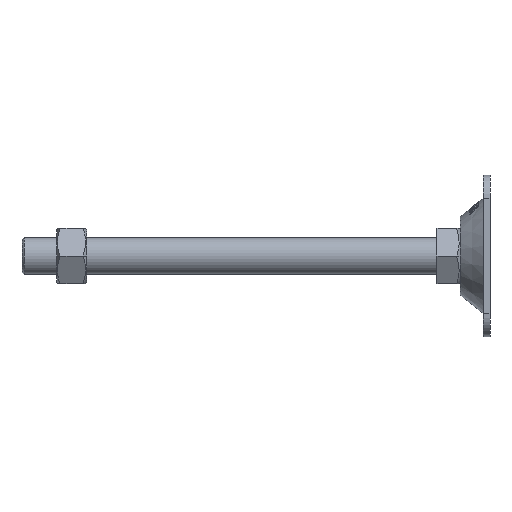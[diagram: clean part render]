
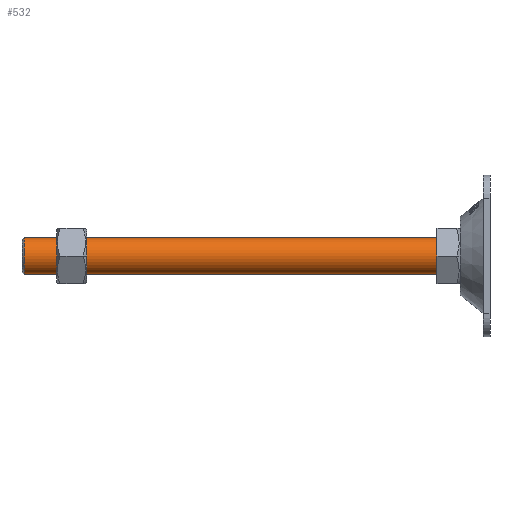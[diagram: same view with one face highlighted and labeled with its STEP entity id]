
A CAD part, left-side view. The second image highlights one B-rep face of the part: STEP entity #532.
In plain terms, the highlighted cylindrical face has radius 8 mm (diameter 16 mm), a partial arc.
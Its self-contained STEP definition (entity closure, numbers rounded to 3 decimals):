
#101 = AXIS2_PLACEMENT_3D ( 'NONE', #4264, #2349, #4292 ) ;
#214 = VECTOR ( 'NONE', #2104, 1000. ) ;
#228 = ORIENTED_EDGE ( 'NONE', *, *, #4911, .T. ) ;
#232 = CARTESIAN_POINT ( 'NONE',  ( 0., 8., 8. ) ) ;
#274 = CARTESIAN_POINT ( 'NONE',  ( 0., 10., 8. ) ) ;
#305 = VECTOR ( 'NONE', #2062, 1000. ) ;
#532 = ADVANCED_FACE ( 'NONE', ( #5176 ), #1379, .T. ) ;
#629 = DIRECTION ( 'NONE',  ( 0., 0., -1. ) ) ;
#692 = EDGE_LOOP ( 'NONE', ( #5097, #228, #1213, #5678 ) ) ;
#755 = VERTEX_POINT ( 'NONE', #274 ) ;
#1213 = ORIENTED_EDGE ( 'NONE', *, *, #2580, .T. ) ;
#1379 = CYLINDRICAL_SURFACE ( 'NONE', #2912, 8. ) ;
#1494 = CARTESIAN_POINT ( 'NONE',  ( 0., 10., -8. ) ) ;
#1534 = LINE ( 'NONE', #3914, #305 ) ;
#2062 = DIRECTION ( 'NONE',  ( 0., -1., 0. ) ) ;
#2104 = DIRECTION ( 'NONE',  ( 0., -1., 0. ) ) ;
#2160 = EDGE_CURVE ( 'NONE', #4002, #755, #3161, .T. ) ;
#2349 = DIRECTION ( 'NONE',  ( 0., 1., 0. ) ) ;
#2580 = EDGE_CURVE ( 'NONE', #4707, #4002, #1534, .T. ) ;
#2584 = AXIS2_PLACEMENT_3D ( 'NONE', #3729, #4955, #629 ) ;
#2912 = AXIS2_PLACEMENT_3D ( 'NONE', #4621, #3233, #5116 ) ;
#3056 = CARTESIAN_POINT ( 'NONE',  ( 0., 189., -8. ) ) ;
#3096 = LINE ( 'NONE', #232, #214 ) ;
#3161 = CIRCLE ( 'NONE', #101, 8. ) ;
#3233 = DIRECTION ( 'NONE',  ( 0., -1., 0. ) ) ;
#3251 = EDGE_CURVE ( 'NONE', #4559, #755, #3096, .T. ) ;
#3729 = CARTESIAN_POINT ( 'NONE',  ( 0., 189., 0. ) ) ;
#3914 = CARTESIAN_POINT ( 'NONE',  ( 0., 8., -8. ) ) ;
#4002 = VERTEX_POINT ( 'NONE', #1494 ) ;
#4264 = CARTESIAN_POINT ( 'NONE',  ( 0., 10., 0. ) ) ;
#4292 = DIRECTION ( 'NONE',  ( 0., 0., 1. ) ) ;
#4550 = CARTESIAN_POINT ( 'NONE',  ( 0., 189., 8. ) ) ;
#4559 = VERTEX_POINT ( 'NONE', #4550 ) ;
#4621 = CARTESIAN_POINT ( 'NONE',  ( 0., 8., 0. ) ) ;
#4707 = VERTEX_POINT ( 'NONE', #3056 ) ;
#4911 = EDGE_CURVE ( 'NONE', #4559, #4707, #5446, .T. ) ;
#4955 = DIRECTION ( 'NONE',  ( 0., -1., 0. ) ) ;
#5097 = ORIENTED_EDGE ( 'NONE', *, *, #3251, .F. ) ;
#5116 = DIRECTION ( 'NONE',  ( 0., 0., -1. ) ) ;
#5176 = FACE_OUTER_BOUND ( 'NONE', #692, .T. ) ;
#5446 = CIRCLE ( 'NONE', #2584, 8. ) ;
#5678 = ORIENTED_EDGE ( 'NONE', *, *, #2160, .T. ) ;
